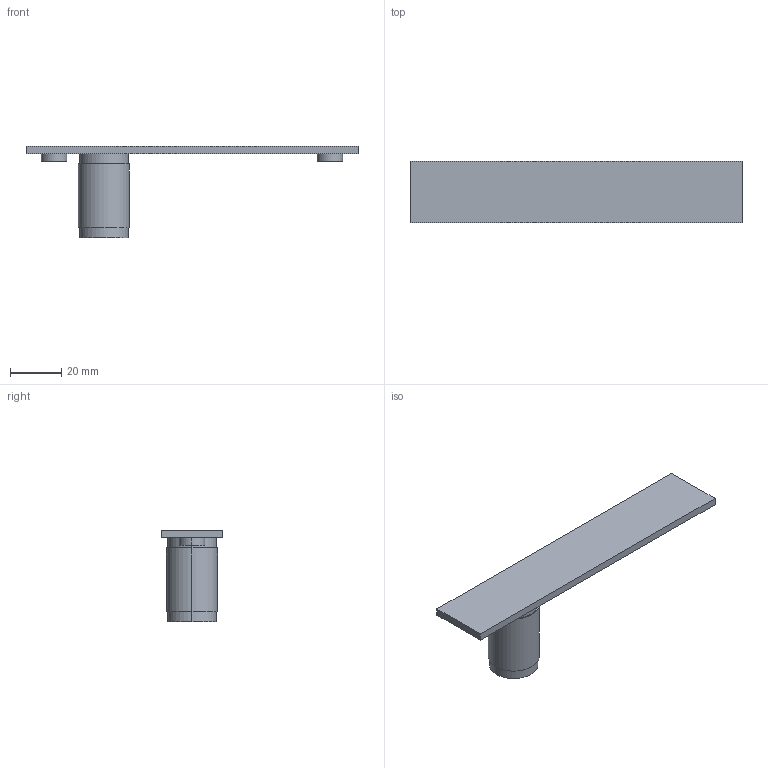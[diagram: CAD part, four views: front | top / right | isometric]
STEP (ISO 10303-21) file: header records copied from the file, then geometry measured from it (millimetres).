
FILE_DESCRIPTION (( 'STEP AP203' ), '1' );
FILE_NAME ('Furniture Knob with Plate.STEP', '2016-10-12T15:08:51', ( '' ), ( '' ), 'SwSTEP 2.0', 'SolidWorks 2014', '' );
FILE_SCHEMA (( 'CONFIG_CONTROL_DESIGN' ));
Length unit declared in the file: millimetre
Products named in the file (1): Furniture Knob with Plate
Bounding box: 130 x 24 x 36 mm (x, y, z)
Volume: 19916.9 mm3; surface area: 9502.1 mm2
Topology: 1 solids, 1 shells, 29 faces, 60 edges, 40 vertices
Faces by surface type: plane 15, cylinder 14
Entity records: 859 total; most frequent: DIRECTION 148, CARTESIAN_POINT 130, ORIENTED_EDGE 120, EDGE_CURVE 60, AXIS2_PLACEMENT_3D 58, VERTEX_POINT 40, EDGE_LOOP 36, VECTOR 32
